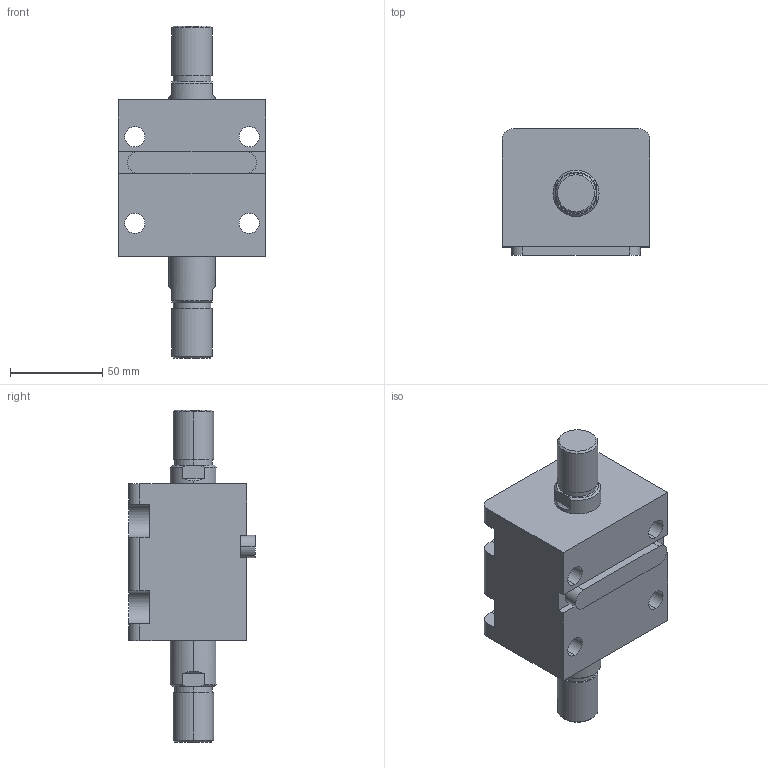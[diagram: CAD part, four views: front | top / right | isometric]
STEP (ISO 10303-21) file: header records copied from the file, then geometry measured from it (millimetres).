
FILE_DESCRIPTION (( 'STEP AP203' ), '1' );
FILE_NAME ('HTB-LW40-15W.STEP', '2019-10-09T07:53:49', ( '微软用户' ), ( '微软中国' ), 'SwSTEP 2.0', 'SolidWorks 2012', '' );
FILE_SCHEMA (( 'CONFIG_CONTROL_DESIGN' ));
Length unit declared in the file: millimetre
Products named in the file (4): HTB-LW40-15W; HTB-LA40-瑩; HTB-LW40-15W活塞杆; HTB-LW40-15掛极
Assembly tree (3 placements, depth 2):
  HTB-LW40-15W
    HTB-LW40-15掛极
    HTB-LW40-15W活塞杆
    HTB-LA40-瑩
Bounding box: 80 x 68.5 x 180 mm (x, y, z)
Volume: 430177.8 mm3; surface area: 71734.4 mm2
Topology: 3 solids, 3 shells, 113 faces, 273 edges, 178 vertices
Faces by surface type: plane 48, cylinder 45, cone 12, torus 8
Entity records: 3779 total; most frequent: CARTESIAN_POINT 622, DIRECTION 617, ORIENTED_EDGE 546, EDGE_CURVE 273, AXIS2_PLACEMENT_3D 241, VERTEX_POINT 178, EDGE_LOOP 135, LINE 135
